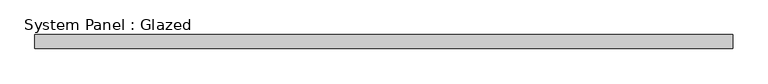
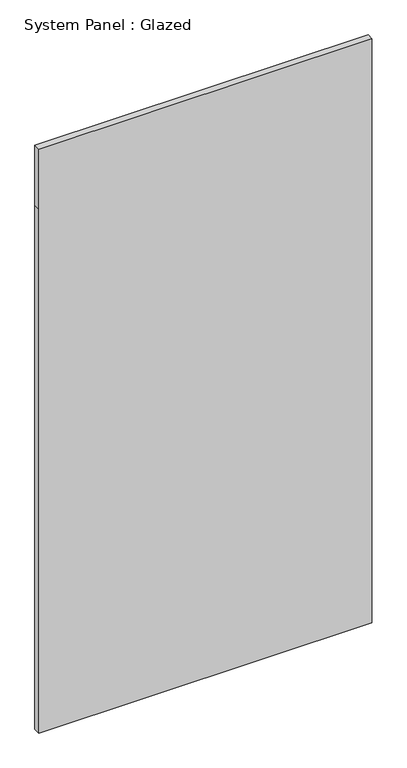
"""IFC4 building model written with IfcOpenShell, lengths in millimetres: plate geometry, System Panel : Glazed."""

from ifc_helpers import new_model, si_unit, frame, origin, place, context, project, spatial, polyline, outline, extrude, source, transform, mapped, element, save


def system_panel_glazed_6ed60089(model_context):
    return source(origin(), model_context, "Body", "SweptSolid", [
        extrude(outline(polyline([(0.0, -632.2785714), (0.0, 632.2785714), (2101.85, 632.2785714), (2343.15, 632.2785714), (2343.15, -632.2785714), (2101.85, -632.2785714), (0.0, -632.2785714)])), frame((0.0, 19.05, 0.0), z_axis=(0.0, 1.0, 0.0), x_axis=(0.0, 0.0, 1.0)), (0.0, 0.0, 1.0), 25.4),
    ])


if __name__ == "__main__":
    model = new_model("IFC4")
    model_context = context("Model", 3, world=origin())
    ifc_project = project(units=[si_unit("LENGTHUNIT", "METRE", prefix="MILLI")], contexts=[model_context])
    site = spatial("IfcSite", under=ifc_project)
    building = spatial("IfcBuilding", under=site)
    placement = place(None, origin())
    system_panel_glazed_shape = system_panel_glazed_6ed60089(model_context)
    element("IfcPlate", 1, ObjectType="System Panel : Glazed", at=placement, inside=building, context=model_context, shape_type="MappedRepresentation", body=[
        mapped(system_panel_glazed_shape, transform((0.0, 0.0, 0.0), x_axis=(1.0, 0.0, 0.0), y_axis=(0.0, 1.0, 0.0), z_axis=(0.0, 0.0, 1.0))),
    ])
    save(model, "model.ifc")
